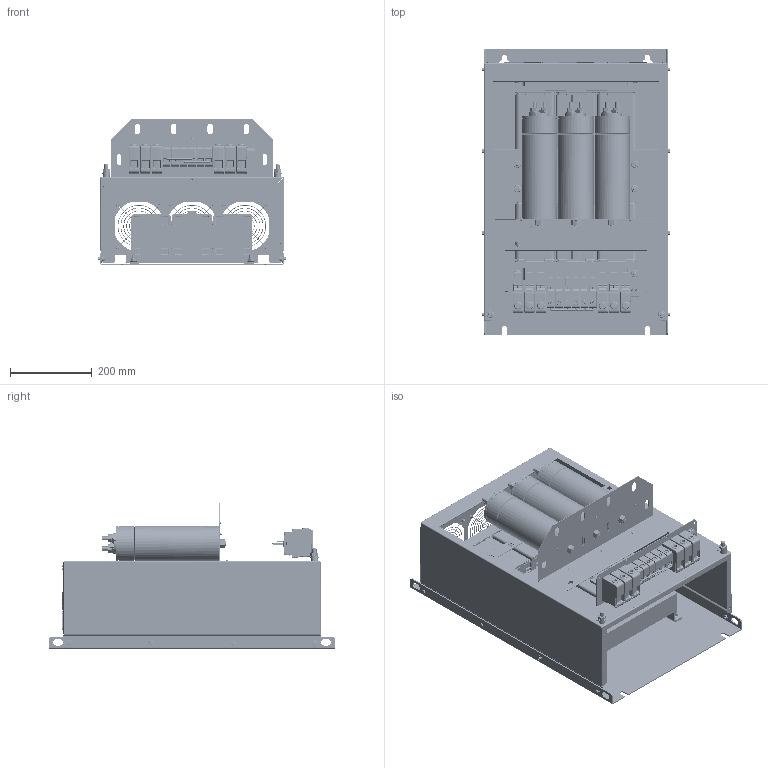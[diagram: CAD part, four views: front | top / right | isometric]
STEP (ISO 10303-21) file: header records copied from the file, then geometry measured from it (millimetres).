
FILE_DESCRIPTION(/* description */ (''),/* implementation_level */ '2;1');
FILE_NAME(/* name */ 'C:\Users\Erika.Jenzer\OneDrive - Schaffner EMV AG\Desktop\Plutus Customer STEP\CUSTOMER IP00 FS E 3CAPS.stp',/* time_stamp */ '2023-05-12T09:55:13+02:00',/* author */ ('erika.jenzer'),/* organization */ (''),/* preprocessor_version */ 'ST-DEVELOPER v18.1',/* originating_system */ 'Autodesk Inventor 2020',/* authorisation */ '');
FILE_SCHEMA (('AUTOMOTIVE_DESIGN { 1 0 10303 214 3 1 1 }'));
Products named in the file (1): CUSTOMER IP00 FS E 3CAPS
Bounding box: 459.59 x 700 x 357.5 mm (x, y, z)
Volume: 19024631.2 mm3; surface area: 3142278.4 mm2
Topology: 23 solids, 23 shells, 13873 faces, 34005 edges, 20298 vertices
Faces by surface type: plane 5070, cylinder 4655, bspline 2612, torus 657, cone 627, sphere 252
Full cylindrical faces by diameter (mm): 1 x14, 1.2 x1, 1.5 x1, 2 x6, 2.8 x6, 3.2 x6, 3.242 x8, 3.3 x3, 3.4 x6, 4 x54, 4.3 x10, 4.881 x6, 5.2 x6, 5.5 x22, 6 x16, 6.5 x10, 7 x8, 7.9 x10, 8 x12, 8.3 x6, 8.7 x4, 9 x10, 9.188 x2, 9.9 x3, 10 x16, 10.5 x2, 11 x14, 11.05 x4, 11.6 x6, 12 x5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
Entity records: 513719 total; most frequent: CARTESIAN_POINT 182790, ORIENTED_EDGE 67410, DIRECTION 66080, EDGE_CURVE 33705, AXIS2_PLACEMENT_3D 24551, VERTEX_POINT 20298, LINE 16978, VECTOR 16978
